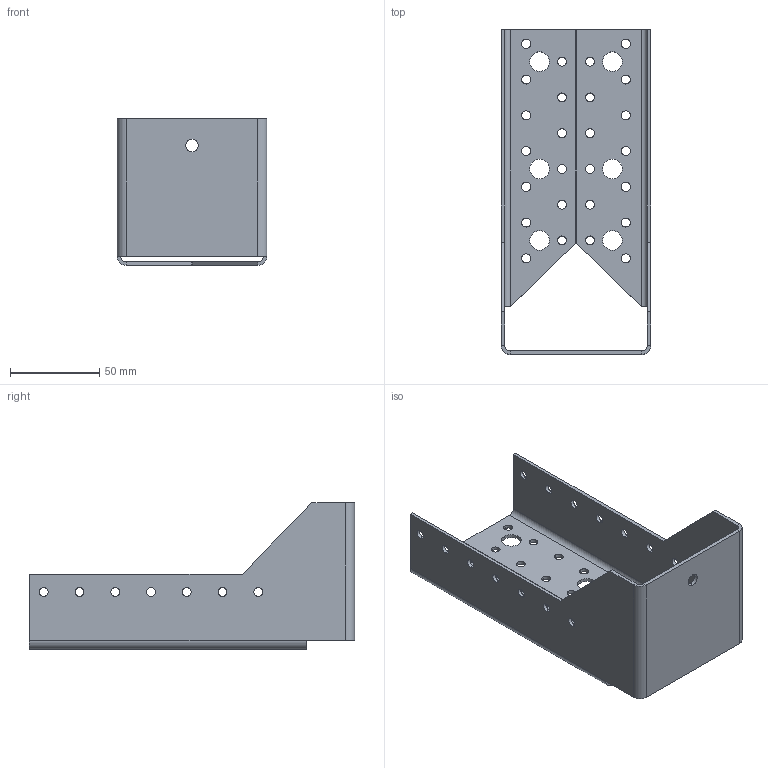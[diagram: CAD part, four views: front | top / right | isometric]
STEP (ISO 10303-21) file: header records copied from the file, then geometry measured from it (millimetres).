
FILE_DESCRIPTION (( 'STEP AP203' ), '1' );
FILE_NAME ('30627IKO.STEP', '2020-04-09T13:20:21', ( '' ), ( '' ), 'SwSTEP 2.0', 'SolidWorks 2013', '' );
FILE_SCHEMA (( 'CONFIG_CONTROL_DESIGN' ));
Length unit declared in the file: millimetre
Products named in the file (1): 30627IKO
Bounding box: 83.72 x 181.86 x 82 mm (x, y, z)
Volume: 66989 mm3; surface area: 70941 mm2
Topology: 1 solids, 1 shells, 139 faces, 379 edges, 242 vertices
Faces by surface type: cylinder 102, plane 37
Entity records: 4726 total; most frequent: DIRECTION 863, CARTESIAN_POINT 761, ORIENTED_EDGE 758, EDGE_CURVE 379, AXIS2_PLACEMENT_3D 344, VERTEX_POINT 242, EDGE_LOOP 233, CIRCLE 204
